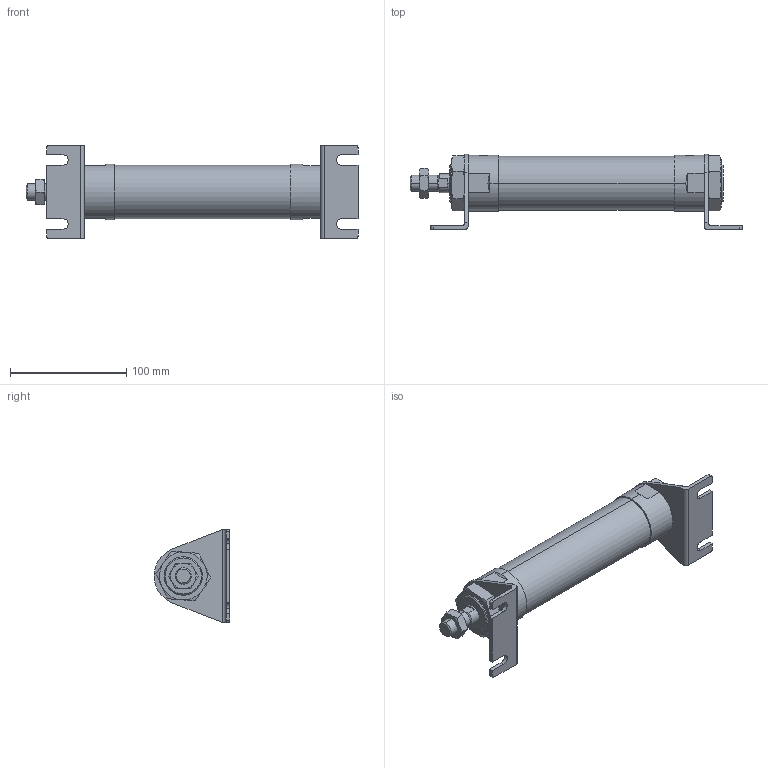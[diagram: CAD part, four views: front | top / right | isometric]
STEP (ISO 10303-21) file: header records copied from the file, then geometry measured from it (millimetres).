
FILE_DESCRIPTION (( 'STEP AP203' ), '1' );
FILE_NAME ('J#2-40-100-L.STEP', '2016-03-10T01:06:03', ( '' ), ( '' ), 'SwSTEP 2.0', 'SolidWorks 2014', '' );
FILE_SCHEMA (( 'CONFIG_CONTROL_DESIGN' ));
Length unit declared in the file: millimetre
Products named in the file (5): J#2-40-L; J#2-40-100-L; J#2-40-100
Assembly tree (6 placements, depth 2):
  J#2-40-100-L
    J#2-40-100
    (unnamed)
    (unnamed)  x2
    J#2-40-L  x2
Bounding box: 285.2 x 65 x 80 mm (x, y, z)
Volume: 422993.6 mm3; surface area: 71037.8 mm2
Topology: 6 solids, 6 shells, 170 faces, 404 edges, 249 vertices
Faces by surface type: plane 71, cylinder 48, torus 36, cone 15
Entity records: 4463 total; most frequent: CARTESIAN_POINT 1173, DIRECTION 578, ORIENTED_EDGE 558, EDGE_CURVE 279, AXIS2_PLACEMENT_3D 232, VERTEX_POINT 173, EDGE_LOOP 134, FACE_OUTER_BOUND 121
